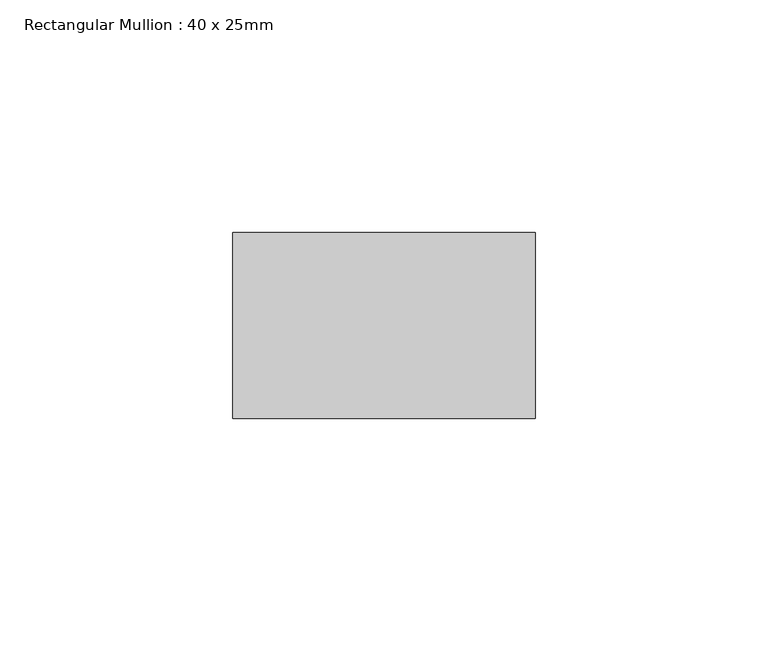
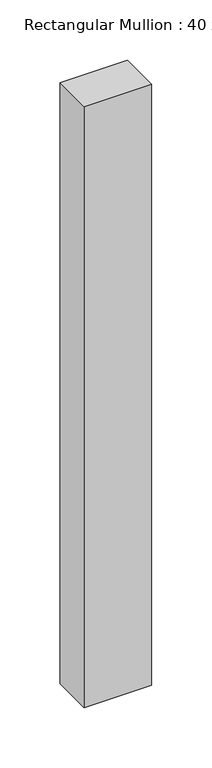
"""IFC4 building model written with IfcOpenShell, lengths in millimetres: member geometry, Rectangular Mullion : 40 x 25mm."""

from ifc_helpers import new_model, si_unit, frame, origin, place, context, project, spatial, polyline, outline, extrude, source, transform, mapped, element, save


def rectangular_mullion_40_x_25mm_2b5eb919(model_context):
    return source(origin(), model_context, "Body", "SweptSolid", [
        extrude(outline(polyline([(0.0, -20.0), (0.0, -60.0), (-65.0, -60.0), (-65.0, -20.0), (0.0, -20.0)])), frame((0.0, 0.0, -610.0), z_axis=(0.0, 0.0, 1.0), x_axis=(1.0, 0.0, 0.0)), (0.0, 0.0, 1.0), 610.0),
    ])


if __name__ == "__main__":
    model = new_model("IFC4")
    model_context = context("Model", 3, world=origin())
    ifc_project = project(units=[si_unit("LENGTHUNIT", "METRE", prefix="MILLI")], contexts=[model_context])
    site = spatial("IfcSite", under=ifc_project)
    building = spatial("IfcBuilding", under=site)
    placement = place(None, origin())
    rectangular_mullion_40_x_25mm_shape = rectangular_mullion_40_x_25mm_2b5eb919(model_context)
    element("IfcMember", 1, ObjectType="Rectangular Mullion : 40 x 25mm", at=placement, inside=building, context=model_context, shape_type="MappedRepresentation", body=[
        mapped(rectangular_mullion_40_x_25mm_shape, transform((0.0, 0.0, 0.0), x_axis=(1.0, 0.0, 0.0), y_axis=(0.0, 1.0, 0.0), z_axis=(0.0, 0.0, 1.0))),
    ])
    save(model, "model.ifc")
